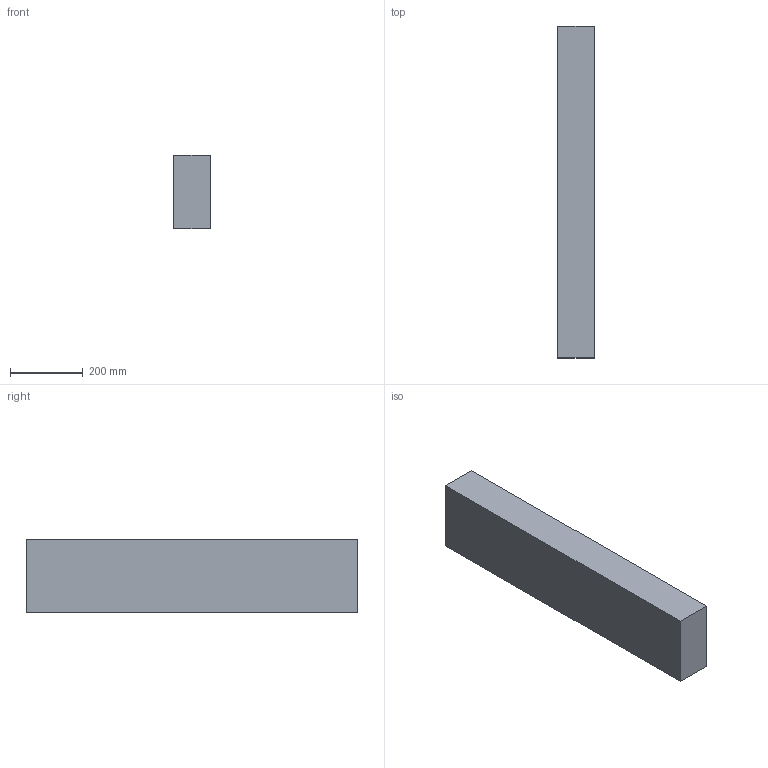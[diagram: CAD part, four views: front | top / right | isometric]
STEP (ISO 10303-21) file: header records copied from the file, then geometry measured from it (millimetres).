
FILE_DESCRIPTION(/* description */ (''),/* implementation_level */ '2;1');
FILE_NAME(/* name */ '4x8x36',/* time_stamp */ '2024-09-20T11:45:26-05:00',/* author */ (''),/* organization */ (''),/* preprocessor_version */ 'ST-DEVELOPER v19.2',/* originating_system */ 'Rhino 8.5',/* authorisation */ '');
FILE_SCHEMA (('CONFIG_CONTROL_DESIGN'));
Length unit declared in the file: inch
Products named in the file (1): Document
Bounding box: 101.6 x 914.4 x 203.2 mm (x, y, z)
Volume: 18877897.7 mm3; surface area: 598708.5 mm2
Topology: 1 solids, 1 shells, 6 faces, 12 edges, 8 vertices
Faces by surface type: plane 6
Entity records: 226 total; most frequent: CARTESIAN_POINT 40, ORIENTED_EDGE 24, EDGE_CURVE 12, B_SPLINE_CURVE_WITH_KNOTS 12, DIRECTION 10, VERTEX_POINT 8, AXIS2_PLACEMENT_3D 8, ORGANIZATION 7
